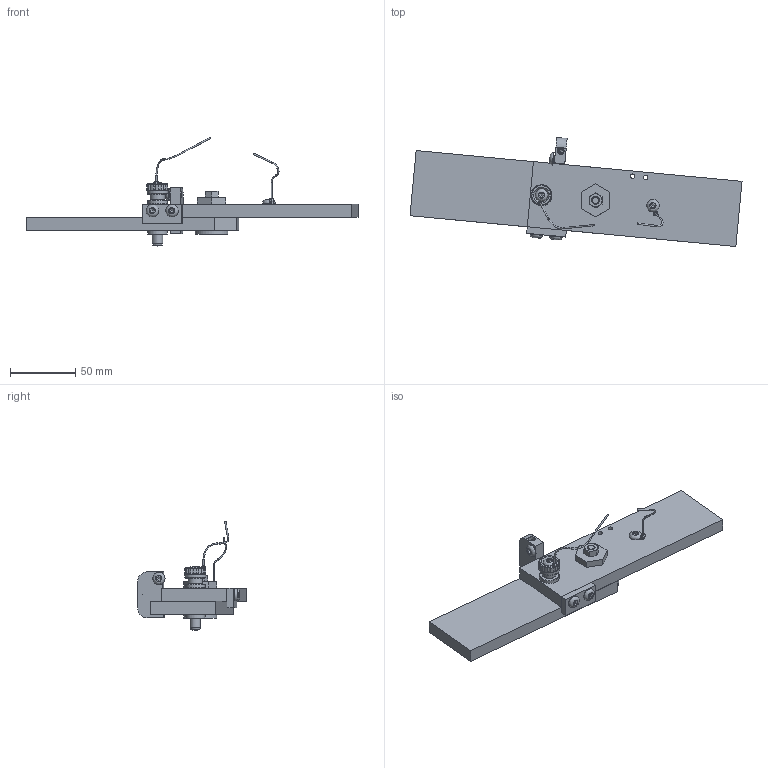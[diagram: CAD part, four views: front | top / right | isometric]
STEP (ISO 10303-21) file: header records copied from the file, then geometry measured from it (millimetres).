
FILE_DESCRIPTION(/* description */ (''),/* implementation_level */ '2;1');
FILE_NAME(/* name */ 'C:\Local Work Area\Progetti\AP\CALIBRI\01.00-P RIBALTINA CON SPINA\01.00-P.stp',/* time_stamp */ '2015-03-26T10:31:49+01:00',/* author */ ('CAD5'),/* organization */ (''),/* preprocessor_version */ 'ST-DEVELOPER v15.2',/* originating_system */ 'Autodesk Inventor 2014',/* authorisation */ '75498,4 mm^3');
FILE_SCHEMA (('AUTOMOTIVE_DESIGN { 1 0 10303 214 3 1 1 }'));
Length unit declared in the file: millimetre
Products named in the file (24): 01.01; 01.02; 01.05; 01.06; 01.07; Molla a tazza Ø12.5x6._2x0_5 uni 8737; Vite STEI M8x12 UNI 5927; Rondella piana 6_4x11 uni 6592; 01.04; BUSSOLA COD 072 D8; UNI 8735 SPINA CILINDRICA 8-35; VOLANTINO ZIGRINATO - 130 10 100; catenella-1; catenella-2; catenella; grano uni5923 M5-12; Vite TBEI M5x10 UNI-ISO 7380; VITE TBEI M5x12 UNI7380; Vite TBEI M5x8 UNI-ISO 7380; 01.08; DADO UNI 5588-M6-1; VITE TCEI M6x20-1-17 UNI5931; 01.00-P
Bounding box: 253.59 x 83.23 x 83.3 mm (x, y, z)
Volume: 169530.7 mm3; surface area: 59498.3 mm2
Topology: 26 solids, 26 shells, 370 faces, 819 edges, 514 vertices
Faces by surface type: plane 169, cylinder 114, cone 58, torus 21, bspline 7, sphere 1
Full cylindrical faces by diameter (mm): 1 x6, 3.242 x1, 3.5 x2, 4.134 x5, 4.917 x2, 5 x9, 5.2 x2, 5.3 x4, 5.333 x1, 6 x3, 6.2 x1, 6.4 x1, 6.5 x1, 6.647 x1, 8 x4, 9.5 x5, 10 x1, 11 x4, 12 x4, 12.5 x1, 13.867 x1, 14 x1, 15 x2, 16 x2, 20 x3, 25 x1
Entity records: 9244 total; most frequent: CARTESIAN_POINT 2119, DIRECTION 1475, ORIENTED_EDGE 1180, AXIS2_PLACEMENT_3D 617, EDGE_CURVE 588, EDGE_LOOP 493, VERTEX_POINT 427, ADVANCED_FACE 328
